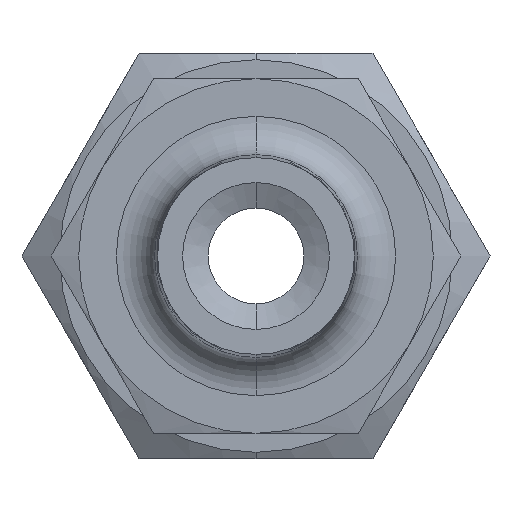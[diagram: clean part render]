
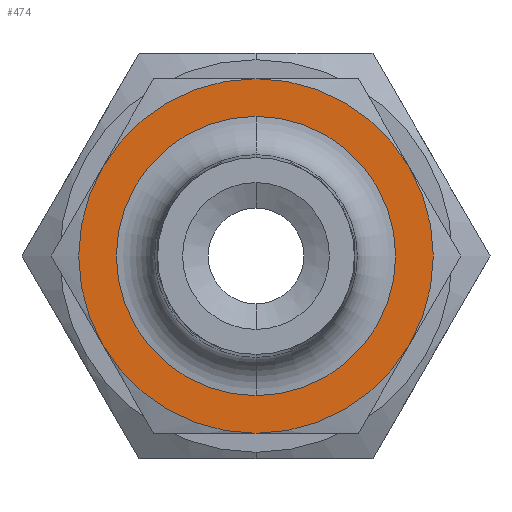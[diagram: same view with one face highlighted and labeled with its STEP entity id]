
A CAD part, left-side view. The second image highlights one B-rep face of the part: STEP entity #474.
In plain terms, the highlighted planar face has unit normal (-1, 0, 0).
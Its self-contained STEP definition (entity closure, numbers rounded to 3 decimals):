
#103 = EDGE_CURVE ( 'NONE', #161, #162, #792, .T. ) ;
#131 = VERTEX_POINT ( 'NONE', #980 ) ;
#161 = VERTEX_POINT ( 'NONE', #942 ) ;
#162 = VERTEX_POINT ( 'NONE', #941 ) ;
#234 = ORIENTED_EDGE ( 'NONE', *, *, #299, .T. ) ;
#258 = EDGE_LOOP ( 'NONE', ( #259, #261, #263, #301, #234, #351 ) ) ;
#259 = ORIENTED_EDGE ( 'NONE', *, *, #260, .F. ) ;
#260 = EDGE_CURVE ( 'NONE', #464, #131, #1082, .T. ) ;
#261 = ORIENTED_EDGE ( 'NONE', *, *, #262, .F. ) ;
#262 = EDGE_CURVE ( 'NONE', #268, #464, #1073, .T. ) ;
#263 = ORIENTED_EDGE ( 'NONE', *, *, #264, .F. ) ;
#264 = EDGE_CURVE ( 'NONE', #483, #268, #1210, .T. ) ;
#268 = VERTEX_POINT ( 'NONE', #1205 ) ;
#273 = VERTEX_POINT ( 'NONE', #1192 ) ;
#299 = EDGE_CURVE ( 'NONE', #379, #273, #1250, .T. ) ;
#301 = ORIENTED_EDGE ( 'NONE', *, *, #302, .F. ) ;
#302 = EDGE_CURVE ( 'NONE', #379, #483, #1433, .T. ) ;
#322 = EDGE_CURVE ( 'NONE', #162, #161, #1402, .T. ) ;
#323 = ORIENTED_EDGE ( 'NONE', *, *, #103, .T. ) ;
#351 = ORIENTED_EDGE ( 'NONE', *, *, #352, .F. ) ;
#352 = EDGE_CURVE ( 'NONE', #131, #273, #1348, .T. ) ;
#379 = VERTEX_POINT ( 'NONE', #1475 ) ;
#464 = VERTEX_POINT ( 'NONE', #1559 ) ;
#474 = ADVANCED_FACE ( 'NONE', ( #1535, #1533 ), #1532, .F. ) ;
#475 = EDGE_LOOP ( 'NONE', ( #476, #323 ) ) ;
#476 = ORIENTED_EDGE ( 'NONE', *, *, #322, .T. ) ;
#483 = VERTEX_POINT ( 'NONE', #1514 ) ;
#788 = DIRECTION ( 'NONE',  ( 0., 0., -1. ) ) ;
#789 = DIRECTION ( 'NONE',  ( 1., 0., 0. ) ) ;
#790 = CARTESIAN_POINT ( 'NONE',  ( 0., 0., 0. ) ) ;
#791 = AXIS2_PLACEMENT_3D ( 'NONE', #790, #789, #788 ) ;
#792 = CIRCLE ( 'NONE', #791, 4.375 ) ;
#941 = CARTESIAN_POINT ( 'NONE',  ( 0., 0., -4.375 ) ) ;
#942 = CARTESIAN_POINT ( 'NONE',  ( 0., 0., 4.375 ) ) ;
#980 = CARTESIAN_POINT ( 'NONE',  ( 0., 4.811, -2.777 ) ) ;
#1071 = CARTESIAN_POINT ( 'NONE',  ( 0., 0., 0. ) ) ;
#1072 = AXIS2_PLACEMENT_3D ( 'NONE', #1071, #1212, #1211 ) ;
#1073 = CIRCLE ( 'NONE', #1072, 5.555 ) ;
#1074 = DIRECTION ( 'NONE',  ( 0., 0., -1. ) ) ;
#1075 = DIRECTION ( 'NONE',  ( 1., 0., 0. ) ) ;
#1076 = CARTESIAN_POINT ( 'NONE',  ( 0., 0., 0. ) ) ;
#1077 = AXIS2_PLACEMENT_3D ( 'NONE', #1076, #1075, #1074 ) ;
#1082 = CIRCLE ( 'NONE', #1077, 5.555 ) ;
#1192 = CARTESIAN_POINT ( 'NONE',  ( 0., 4.811, 2.777 ) ) ;
#1205 = CARTESIAN_POINT ( 'NONE',  ( 0., -4.811, -2.777 ) ) ;
#1206 = DIRECTION ( 'NONE',  ( 0., 0., -1. ) ) ;
#1207 = DIRECTION ( 'NONE',  ( 1., 0., 0. ) ) ;
#1208 = CARTESIAN_POINT ( 'NONE',  ( 0., 0., 0. ) ) ;
#1209 = AXIS2_PLACEMENT_3D ( 'NONE', #1208, #1207, #1206 ) ;
#1210 = CIRCLE ( 'NONE', #1209, 5.555 ) ;
#1211 = DIRECTION ( 'NONE',  ( 0., 0., -1. ) ) ;
#1212 = DIRECTION ( 'NONE',  ( 1., 0., 0. ) ) ;
#1248 = CARTESIAN_POINT ( 'NONE',  ( 0., 0., 0. ) ) ;
#1249 = AXIS2_PLACEMENT_3D ( 'NONE', #1248, #1436, #1435 ) ;
#1250 = CIRCLE ( 'NONE', #1249, 5.555 ) ;
#1333 = DIRECTION ( 'NONE',  ( 0., 0., -1. ) ) ;
#1334 = DIRECTION ( 'NONE',  ( 1., 0., 0. ) ) ;
#1335 = AXIS2_PLACEMENT_3D ( 'NONE', #1351, #1334, #1333 ) ;
#1348 = CIRCLE ( 'NONE', #1335, 5.555 ) ;
#1351 = CARTESIAN_POINT ( 'NONE',  ( 0., 0., 0. ) ) ;
#1399 = DIRECTION ( 'NONE',  ( 0., 0., -1. ) ) ;
#1400 = DIRECTION ( 'NONE',  ( 1., 0., 0. ) ) ;
#1401 = AXIS2_PLACEMENT_3D ( 'NONE', #1408, #1400, #1399 ) ;
#1402 = CIRCLE ( 'NONE', #1401, 4.375 ) ;
#1408 = CARTESIAN_POINT ( 'NONE',  ( 0., 0., 0. ) ) ;
#1429 = DIRECTION ( 'NONE',  ( 0., 0., -1. ) ) ;
#1430 = DIRECTION ( 'NONE',  ( 1., 0., 0. ) ) ;
#1431 = CARTESIAN_POINT ( 'NONE',  ( 0., 0., 0. ) ) ;
#1432 = AXIS2_PLACEMENT_3D ( 'NONE', #1431, #1430, #1429 ) ;
#1433 = CIRCLE ( 'NONE', #1432, 5.555 ) ;
#1435 = DIRECTION ( 'NONE',  ( 0., 0., 1. ) ) ;
#1436 = DIRECTION ( 'NONE',  ( -1., 0., 0. ) ) ;
#1475 = CARTESIAN_POINT ( 'NONE',  ( 0., 0., 5.555 ) ) ;
#1514 = CARTESIAN_POINT ( 'NONE',  ( 0., -4.811, 2.777 ) ) ;
#1522 = DIRECTION ( 'NONE',  ( 0., 0., -1. ) ) ;
#1523 = DIRECTION ( 'NONE',  ( 1., 0., 0. ) ) ;
#1524 = CARTESIAN_POINT ( 'NONE',  ( 0., 6.414, 0. ) ) ;
#1525 = AXIS2_PLACEMENT_3D ( 'NONE', #1524, #1523, #1522 ) ;
#1532 = PLANE ( 'NONE',  #1525 ) ;
#1533 = FACE_OUTER_BOUND ( 'NONE', #258, .T. ) ;
#1535 = FACE_BOUND ( 'NONE', #475, .T. ) ;
#1559 = CARTESIAN_POINT ( 'NONE',  ( 0., 0., -5.555 ) ) ;
